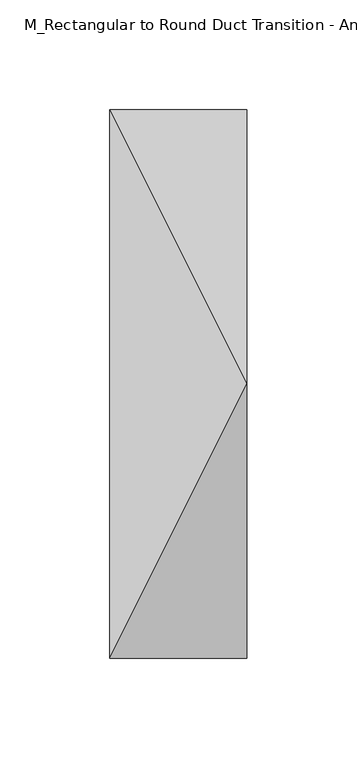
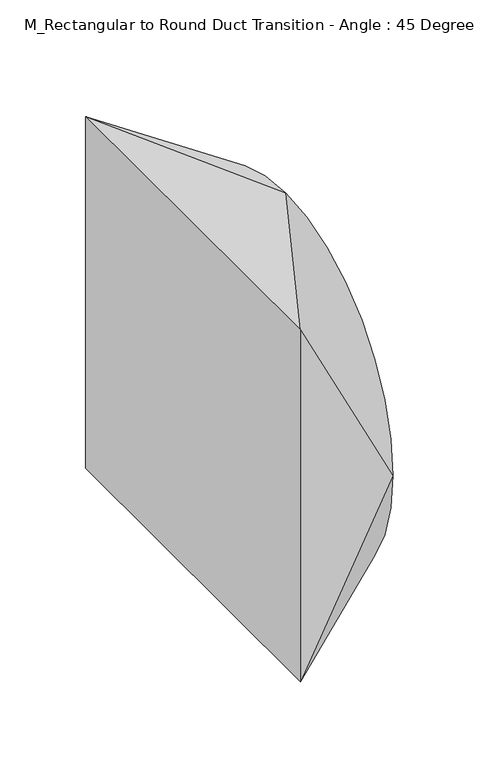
"""IFC4 building model written with IfcOpenShell, lengths in millimetres: duct fitting geometry, M_Rectangular to Round Duct Transition - Angle : 45 Degree."""

from ifc_helpers import new_model, si_unit, frame, origin, place, context, project, spatial, circle_curve, source, transform, mapped, element, save
from ifc_brep_helpers import plane_surface, spline_surface, advanced_brep


def m_rectangular_to_round_duct_transition_angle_45_degree_6eaa8da4(model_context):
    return source(origin(), model_context, "Body", "AdvancedBrep", [
        advanced_brep(
        [(0.0, -125.0, -125.0), (0.0, -125.0, 125.0), (0.0, 125.0, 125.0), (0.0, 125.0, -125.0), (62.5, -125.0, -0.4351637), (62.5, 0.0, -125.4351637), (62.5, 125.0, -0.4351637), (62.5, 0.0, 124.5648363)],
        [
            (0, 1),
            (1, 2),
            (2, 3),
            (3, 0),
            (4, 5, circle_curve(frame((62.5, 0.0, -0.4351637), z_axis=(1.0, 0.0, 0.0), x_axis=(0.0, -1.0, 0.0)), 125.0)),
            (5, 6, circle_curve(frame((62.5, 0.0, -0.4351637), z_axis=(1.0, 0.0, 0.0), x_axis=(0.0, -1.0, 0.0)), 125.0)),
            (6, 7, circle_curve(frame((62.5, 0.0, -0.4351637), z_axis=(1.0, 0.0, 0.0), x_axis=(0.0, -1.0, 0.0)), 125.0)),
            (7, 4, circle_curve(frame((62.5, 0.0, -0.4351637), z_axis=(1.0, 0.0, 0.0), x_axis=(0.0, -1.0, 0.0)), 125.0)),
            (0, 4),
            (4, 1),
            (7, 1),
            (7, 2),
            (6, 2),
            (6, 3),
            (5, 3),
            (5, 0),
        ],
        [
            plane_surface(frame((0.0, 0.0, 0.0), z_axis=(-1.0, 0.0, 0.0), x_axis=(0.0, 1.0, 0.0))),
            plane_surface(frame((62.5, 0.0, -0.4351637), z_axis=(1.0, 0.0, 0.0), x_axis=(0.0, 1.0, 0.0))),
            plane_surface(frame((62.5, -125.0, -0.4351637), z_axis=(0.0, -1.0, 0.0), x_axis=(0.0, 0.0, 1.0))),
            spline_surface(2, 1, [[(62.5, -125.0, -0.4351637), (0.0, -125.0, 125.0)], [(62.5, -125.0, 124.5648363), (0.0, -125.0, 125.0)], [(62.5, 0.0, 124.5648363), (0.0, -125.0, 125.0)]], [3, 3], [2, 2], [0.0, 1.0], [0.0, 1.0], weights=[[1.0, 1.0], [0.7071067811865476, 0.7071067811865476], [1.0, 1.0]]),
            plane_surface(frame((62.5, 0.0, 124.5648363), z_axis=(0.006962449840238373, 0.0, 0.9999757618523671), x_axis=(0.0, 1.0, 0.0))),
            spline_surface(2, 1, [[(62.5, 0.0, 124.5648363), (0.0, 125.0, 125.0)], [(62.5, 125.0, 124.5648363), (0.0, 125.0, 125.0)], [(62.5, 125.0, -0.4351637), (0.0, 125.0, 125.0)]], [3, 3], [2, 2], [0.0, 1.0], [0.0, 1.0], weights=[[1.0, 1.0], [0.7071067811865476, 0.7071067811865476], [1.0, 1.0]]),
            plane_surface(frame((62.5, 125.0, -0.4351637), z_axis=(0.0, 1.0, 0.0), x_axis=(0.0, 0.0, -1.0))),
            spline_surface(2, 1, [[(62.5, 125.0, -0.4351637), (0.0, 125.0, -125.0)], [(62.5, 125.0, -125.4351637), (0.0, 125.0, -125.0)], [(62.5, 0.0, -125.4351637), (0.0, 125.0, -125.0)]], [3, 3], [2, 2], [0.0, 1.0], [0.0, 1.0], weights=[[1.0, 1.0], [0.7071067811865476, 0.7071067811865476], [1.0, 1.0]]),
            plane_surface(frame((62.5, 0.0, -125.4351637), z_axis=(-0.0069624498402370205, 0.0, -0.9999757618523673), x_axis=(0.0, -1.0, 0.0))),
            spline_surface(2, 1, [[(62.5, 0.0, -125.4351637), (0.0, -125.0, -125.0)], [(62.5, -125.0, -125.4351637), (0.0, -125.0, -125.0)], [(62.5, -125.0, -0.4351637), (0.0, -125.0, -125.0)]], [3, 3], [2, 2], [0.0, 1.0], [0.0, 1.0], weights=[[1.0, 1.0], [0.7071067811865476, 0.7071067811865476], [1.0, 1.0]]),
        ],
        [
            (0, [[1, 2, 3, 4]]),
            (1, [[5, 6, 7, 8]]),
            (2, [[-1, 9, 10]]),
            (3, [[-8, 11, -10]]),
            (4, [[-2, -11, 12]]),
            (5, [[-7, 13, -12]]),
            (6, [[-3, -13, 14]]),
            (7, [[-6, 15, -14]]),
            (8, [[-4, -15, 16]]),
            (9, [[-5, -9, -16]]),
        ],
    ),
        advanced_brep(
        [(0.0, -125.0, -125.0), (0.0, -125.0, 125.0), (0.0, 125.0, 125.0), (0.0, 125.0, -125.0), (62.5, -125.0, -0.4351637), (62.5, 0.0, -125.4351637), (62.5, 125.0, -0.4351637), (62.5, 0.0, 124.5648363)],
        [
            (0, 1),
            (1, 2),
            (2, 3),
            (3, 0),
            (4, 5, circle_curve(frame((62.5, 0.0, -0.4351637), z_axis=(1.0, 0.0, 0.0), x_axis=(0.0, -1.0, 0.0)), 125.0)),
            (5, 6, circle_curve(frame((62.5, 0.0, -0.4351637), z_axis=(1.0, 0.0, 0.0), x_axis=(0.0, -1.0, 0.0)), 125.0)),
            (6, 7, circle_curve(frame((62.5, 0.0, -0.4351637), z_axis=(1.0, 0.0, 0.0), x_axis=(0.0, -1.0, 0.0)), 125.0)),
            (7, 4, circle_curve(frame((62.5, 0.0, -0.4351637), z_axis=(1.0, 0.0, 0.0), x_axis=(0.0, -1.0, 0.0)), 125.0)),
            (0, 4),
            (4, 1),
            (7, 1),
            (7, 2),
            (6, 2),
            (6, 3),
            (5, 3),
            (5, 0),
        ],
        [
            plane_surface(frame((0.0, 0.0, 0.0), z_axis=(-1.0, 0.0, 0.0), x_axis=(0.0, 1.0, 0.0))),
            plane_surface(frame((62.5, 0.0, -0.4351637), z_axis=(1.0, 0.0, 0.0), x_axis=(0.0, 1.0, 0.0))),
            plane_surface(frame((62.5, -125.0, -0.4351637), z_axis=(0.0, -1.0, 0.0), x_axis=(0.0, 0.0, 1.0))),
            spline_surface(2, 1, [[(62.5, -125.0, -0.4351637), (0.0, -125.0, 125.0)], [(62.5, -125.0, 124.5648363), (0.0, -125.0, 125.0)], [(62.5, 0.0, 124.5648363), (0.0, -125.0, 125.0)]], [3, 3], [2, 2], [0.0, 1.0], [0.0, 1.0], weights=[[1.0, 1.0], [0.7071067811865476, 0.7071067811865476], [1.0, 1.0]]),
            plane_surface(frame((62.5, 0.0, 124.5648363), z_axis=(0.006962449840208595, 0.0, 0.9999757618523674), x_axis=(0.0, 1.0, 0.0))),
            spline_surface(2, 1, [[(62.5, 0.0, 124.5648363), (0.0, 125.0, 125.0)], [(62.5, 125.0, 124.5648363), (0.0, 125.0, 125.0)], [(62.5, 125.0, -0.4351637), (0.0, 125.0, 125.0)]], [3, 3], [2, 2], [0.0, 1.0], [0.0, 1.0], weights=[[1.0, 1.0], [0.7071067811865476, 0.7071067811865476], [1.0, 1.0]]),
            plane_surface(frame((62.5, 125.0, -0.4351637), z_axis=(0.0, 1.0, 0.0), x_axis=(0.0, 0.0, -1.0))),
            spline_surface(2, 1, [[(62.5, 125.0, -0.4351637), (0.0, 125.0, -125.0)], [(62.5, 125.0, -125.4351637), (0.0, 125.0, -125.0)], [(62.5, 0.0, -125.4351637), (0.0, 125.0, -125.0)]], [3, 3], [2, 2], [0.0, 1.0], [0.0, 1.0], weights=[[1.0, 1.0], [0.7071067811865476, 0.7071067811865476], [1.0, 1.0]]),
            plane_surface(frame((62.5, 0.0, -125.4351637), z_axis=(-0.006962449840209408, 0.0, -0.9999757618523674), x_axis=(0.0, -1.0, 0.0))),
            spline_surface(2, 1, [[(62.5, 0.0, -125.4351637), (0.0, -125.0, -125.0)], [(62.5, -125.0, -125.4351637), (0.0, -125.0, -125.0)], [(62.5, -125.0, -0.4351637), (0.0, -125.0, -125.0)]], [3, 3], [2, 2], [0.0, 1.0], [0.0, 1.0], weights=[[1.0, 1.0], [0.7071067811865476, 0.7071067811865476], [1.0, 1.0]]),
        ],
        [
            (0, [[1, 2, 3, 4]]),
            (1, [[5, 6, 7, 8]]),
            (2, [[-1, 9, 10]]),
            (3, [[-8, 11, -10]]),
            (4, [[-2, -11, 12]]),
            (5, [[-7, 13, -12]]),
            (6, [[-3, -13, 14]]),
            (7, [[-6, 15, -14]]),
            (8, [[-4, -15, 16]]),
            (9, [[-5, -9, -16]]),
        ],
    ),
        advanced_brep(
        [(62.5, 0.0, 124.5648363), (62.5, -125.0, -0.4351637), (62.5, 0.0, -125.4351637), (62.5, 125.0, -0.4351637), (0.0, -125.0, 125.0), (0.0, 125.0, 125.0), (0.0, 125.0, -125.0), (0.0, -125.0, -125.0)],
        [
            (0, 1, circle_curve(frame((62.5, 0.0, -0.4351637), z_axis=(1.0, 0.0, 0.0), x_axis=(0.0, 1.0, 0.0)), 125.0)),
            (1, 2, circle_curve(frame((62.5, 0.0, -0.4351637), z_axis=(1.0, 0.0, 0.0), x_axis=(0.0, 1.0, 0.0)), 125.0)),
            (2, 3, circle_curve(frame((62.5, 0.0, -0.4351637), z_axis=(1.0, 0.0, 0.0), x_axis=(0.0, 1.0, 0.0)), 125.0)),
            (3, 0, circle_curve(frame((62.5, 0.0, -0.4351637), z_axis=(1.0, 0.0, 0.0), x_axis=(0.0, 1.0, 0.0)), 125.0)),
            (4, 5),
            (5, 6),
            (6, 7),
            (7, 4),
            (0, 4),
            (4, 1),
            (7, 1),
            (7, 2),
            (6, 2),
            (6, 3),
            (5, 3),
            (5, 0),
        ],
        [
            plane_surface(frame((62.5, 0.0, -0.4351637), z_axis=(1.0, 0.0, 0.0), x_axis=(0.0, 0.0, -1.0))),
            plane_surface(frame((0.0, 0.0, 0.0), z_axis=(-1.0, 0.0, 0.0), x_axis=(0.0, 0.0, -1.0))),
            spline_surface(2, 1, [[(0.0, -125.0, 125.0), (62.5, 0.0, 124.5648363)], [(0.0, -125.0, 125.0), (62.5, -125.0, 124.5648363)], [(0.0, -125.0, 125.0), (62.5, -125.0, -0.4351637)]], [3, 3], [2, 2], [0.0, 1.0], [0.0, 1.0], weights=[[1.0, 1.0], [0.7071067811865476, 0.7071067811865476], [1.0, 1.0]]),
            plane_surface(frame((0.0, -125.0, 0.0), z_axis=(0.0, -1.0, 0.0), x_axis=(0.0, 0.0, -1.0))),
            spline_surface(2, 1, [[(0.0, -125.0, -125.0), (62.5, -125.0, -0.4351637)], [(0.0, -125.0, -125.0), (62.5, -125.0, -125.4351637)], [(0.0, -125.0, -125.0), (62.5, 0.0, -125.4351637)]], [3, 3], [2, 2], [0.0, 1.0], [0.0, 1.0], weights=[[1.0, 1.0], [0.7071067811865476, 0.7071067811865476], [1.0, 1.0]]),
            plane_surface(frame((0.0, 0.0, -125.0), z_axis=(-0.006962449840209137, 0.0, -0.9999757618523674), x_axis=(0.0, 1.0, 0.0))),
            spline_surface(2, 1, [[(0.0, 125.0, -125.0), (62.5, 0.0, -125.4351637)], [(0.0, 125.0, -125.0), (62.5, 125.0, -125.4351637)], [(0.0, 125.0, -125.0), (62.5, 125.0, -0.4351637)]], [3, 3], [2, 2], [0.0, 1.0], [0.0, 1.0], weights=[[1.0, 1.0], [0.7071067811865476, 0.7071067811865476], [1.0, 1.0]]),
            plane_surface(frame((0.0, 125.0, 0.0), z_axis=(0.0, 1.0, 0.0), x_axis=(0.0, 0.0, 1.0))),
            spline_surface(2, 1, [[(0.0, 125.0, 125.0), (62.5, 125.0, -0.4351637)], [(0.0, 125.0, 125.0), (62.5, 125.0, 124.5648363)], [(0.0, 125.0, 125.0), (62.5, 0.0, 124.5648363)]], [3, 3], [2, 2], [0.0, 1.0], [0.0, 1.0], weights=[[1.0, 1.0], [0.7071067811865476, 0.7071067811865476], [1.0, 1.0]]),
            plane_surface(frame((0.0, 0.0, 125.0), z_axis=(0.006962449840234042, 0.0, 0.9999757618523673), x_axis=(0.0, -1.0, 0.0))),
        ],
        [
            (0, [[1, 2, 3, 4]]),
            (1, [[5, 6, 7, 8]]),
            (2, [[-1, 9, 10]]),
            (3, [[-8, 11, -10]]),
            (4, [[-2, -11, 12]]),
            (5, [[-7, 13, -12]]),
            (6, [[-3, -13, 14]]),
            (7, [[-6, 15, -14]]),
            (8, [[-4, -15, 16]]),
            (9, [[-5, -9, -16]]),
        ],
    ),
    ])


if __name__ == "__main__":
    model = new_model("IFC4")
    model_context = context("Model", 3, world=origin())
    ifc_project = project(units=[si_unit("LENGTHUNIT", "METRE", prefix="MILLI")], contexts=[model_context])
    site = spatial("IfcSite", under=ifc_project)
    building = spatial("IfcBuilding", under=site)
    placement = place(None, origin())
    m_rectangular_to_round_duct_transition_angle_45_degree_shape = m_rectangular_to_round_duct_transition_angle_45_degree_6eaa8da4(model_context)
    element("IfcDuctFitting", 1, ObjectType="M_Rectangular to Round Duct Transition - Angle : 45 Degree", at=placement, inside=building, context=model_context, shape_type="MappedRepresentation", body=[
        mapped(m_rectangular_to_round_duct_transition_angle_45_degree_shape, transform((0.0, 0.0, 0.0), x_axis=(1.0, 0.0, 0.0), y_axis=(0.0, 1.0, 0.0), z_axis=(0.0, 0.0, 1.0))),
    ])
    save(model, "model.ifc")
